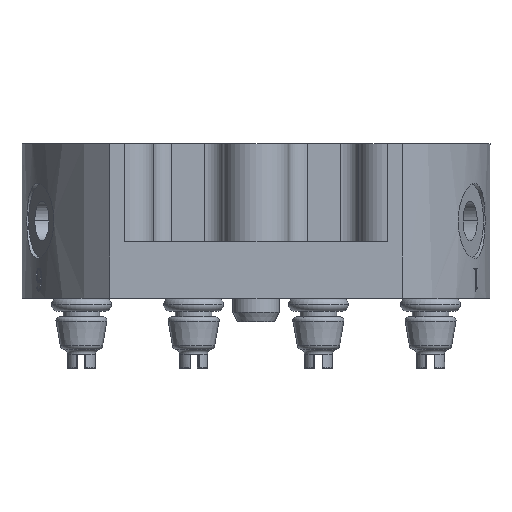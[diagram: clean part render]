
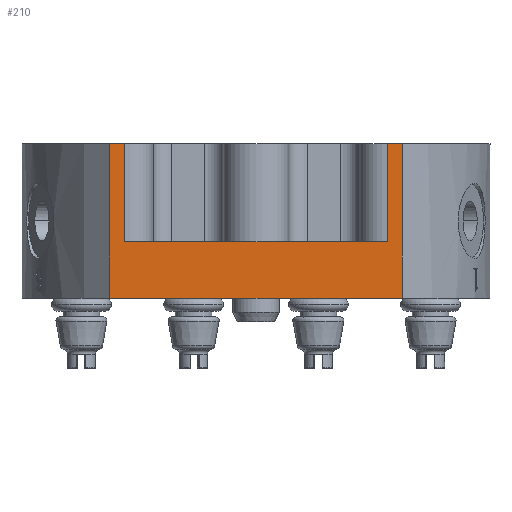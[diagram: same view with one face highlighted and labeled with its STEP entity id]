
A CAD part, front view. The second image highlights one B-rep face of the part: STEP entity #210.
In plain terms, the highlighted planar face has unit normal (0, -1, 0).
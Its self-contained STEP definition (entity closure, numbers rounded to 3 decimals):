
#142 = CARTESIAN_POINT ( 'NONE',  ( -27.245, -24.983, 18.075 ) ) ;
#185 = VERTEX_POINT ( 'NONE', #7822 ) ;
#210 = ADVANCED_FACE ( 'NONE', ( #25663 ), #8456, .T. ) ;
#1057 = DIRECTION ( 'NONE',  ( -1., 0., 0. ) ) ;
#1151 = CARTESIAN_POINT ( 'NONE',  ( -42.89, -24.983, 24.075 ) ) ;
#1466 = CARTESIAN_POINT ( 'NONE',  ( -42.89, -24.983, 34.575 ) ) ;
#1740 = CARTESIAN_POINT ( 'NONE',  ( -58.534, -24.983, 18.075 ) ) ;
#2081 = DIRECTION ( 'NONE',  ( -1., 0., 0. ) ) ;
#2202 = LINE ( 'NONE', #18168, #13422 ) ;
#2273 = EDGE_CURVE ( 'NONE', #9761, #6561, #5749, .T. ) ;
#2812 = LINE ( 'NONE', #5069, #14092 ) ;
#3131 = ORIENTED_EDGE ( 'NONE', *, *, #2273, .T. ) ;
#3979 = DIRECTION ( 'NONE',  ( -1., 0., 0. ) ) ;
#4450 = VECTOR ( 'NONE', #21572, 1000. ) ;
#4564 = DIRECTION ( 'NONE',  ( 0., 0., 1. ) ) ;
#5069 = CARTESIAN_POINT ( 'NONE',  ( -42.89, -24.983, 24.075 ) ) ;
#5573 = CARTESIAN_POINT ( 'NONE',  ( -42.892, -24.983, 18.075 ) ) ;
#5749 = LINE ( 'NONE', #15601, #6136 ) ;
#5947 = VERTEX_POINT ( 'NONE', #142 ) ;
#6067 = EDGE_CURVE ( 'NONE', #20191, #11606, #15251, .T. ) ;
#6136 = VECTOR ( 'NONE', #16026, 1000. ) ;
#6561 = VERTEX_POINT ( 'NONE', #16108 ) ;
#7100 = ORIENTED_EDGE ( 'NONE', *, *, #17906, .F. ) ;
#7822 = CARTESIAN_POINT ( 'NONE',  ( -58.534, -24.983, 34.575 ) ) ;
#8041 = CARTESIAN_POINT ( 'NONE',  ( -27.245, -24.983, 34.575 ) ) ;
#8456 = PLANE ( 'NONE',  #28119 ) ;
#8491 = DIRECTION ( 'NONE',  ( 0., -1., 0. ) ) ;
#8518 = DIRECTION ( 'NONE',  ( -1., 0., 0. ) ) ;
#8555 = EDGE_CURVE ( 'NONE', #11606, #16123, #26502, .T. ) ;
#8584 = EDGE_CURVE ( 'NONE', #5947, #20191, #27546, .T. ) ;
#9564 = EDGE_CURVE ( 'NONE', #16123, #16764, #13541, .T. ) ;
#9664 = DIRECTION ( 'NONE',  ( -1., 0., 0. ) ) ;
#9761 = VERTEX_POINT ( 'NONE', #15913 ) ;
#10379 = CARTESIAN_POINT ( 'NONE',  ( -28.89, -24.983, 26.325 ) ) ;
#10414 = DIRECTION ( 'NONE',  ( 0., 0., -1. ) ) ;
#10519 = LINE ( 'NONE', #5573, #4450 ) ;
#10603 = CARTESIAN_POINT ( 'NONE',  ( -27.245, -24.983, 26.325 ) ) ;
#10774 = DIRECTION ( 'NONE',  ( 0., 0., 1. ) ) ;
#10841 = VERTEX_POINT ( 'NONE', #1740 ) ;
#11177 = ORIENTED_EDGE ( 'NONE', *, *, #6067, .T. ) ;
#11606 = VERTEX_POINT ( 'NONE', #23247 ) ;
#13213 = VECTOR ( 'NONE', #1057, 1000. ) ;
#13422 = VECTOR ( 'NONE', #4564, 1000. ) ;
#13541 = LINE ( 'NONE', #1151, #13213 ) ;
#14092 = VECTOR ( 'NONE', #9664, 1000. ) ;
#14565 = VECTOR ( 'NONE', #2081, 1000. ) ;
#15251 = LINE ( 'NONE', #1466, #14565 ) ;
#15601 = CARTESIAN_POINT ( 'NONE',  ( -56.89, -24.983, 26.325 ) ) ;
#15913 = CARTESIAN_POINT ( 'NONE',  ( -56.89, -24.983, 24.075 ) ) ;
#16026 = DIRECTION ( 'NONE',  ( 0., 0., 1. ) ) ;
#16094 = ORIENTED_EDGE ( 'NONE', *, *, #20174, .F. ) ;
#16108 = CARTESIAN_POINT ( 'NONE',  ( -56.89, -24.983, 34.575 ) ) ;
#16123 = VERTEX_POINT ( 'NONE', #17110 ) ;
#16764 = VERTEX_POINT ( 'NONE', #23297 ) ;
#17110 = CARTESIAN_POINT ( 'NONE',  ( -28.89, -24.983, 24.075 ) ) ;
#17906 = EDGE_CURVE ( 'NONE', #10841, #185, #2202, .T. ) ;
#18168 = CARTESIAN_POINT ( 'NONE',  ( -58.534, -24.983, 26.325 ) ) ;
#18492 = ORIENTED_EDGE ( 'NONE', *, *, #28581, .T. ) ;
#18823 = LINE ( 'NONE', #22126, #24795 ) ;
#18854 = ORIENTED_EDGE ( 'NONE', *, *, #8584, .T. ) ;
#20174 = EDGE_CURVE ( 'NONE', #5947, #10841, #10519, .T. ) ;
#20191 = VERTEX_POINT ( 'NONE', #23832 ) ;
#20836 = ORIENTED_EDGE ( 'NONE', *, *, #9564, .T. ) ;
#21572 = DIRECTION ( 'NONE',  ( -1., 0., 0. ) ) ;
#21795 = ORIENTED_EDGE ( 'NONE', *, *, #8555, .T. ) ;
#22126 = CARTESIAN_POINT ( 'NONE',  ( -42.89, -24.983, 34.575 ) ) ;
#23247 = CARTESIAN_POINT ( 'NONE',  ( -28.89, -24.983, 34.575 ) ) ;
#23297 = CARTESIAN_POINT ( 'NONE',  ( -42.89, -24.983, 24.075 ) ) ;
#23678 = VECTOR ( 'NONE', #10414, 1000. ) ;
#23829 = VECTOR ( 'NONE', #10774, 1000. ) ;
#23832 = CARTESIAN_POINT ( 'NONE',  ( -27.245, -24.983, 34.575 ) ) ;
#24675 = EDGE_CURVE ( 'NONE', #6561, #185, #18823, .T. ) ;
#24795 = VECTOR ( 'NONE', #3979, 1000. ) ;
#25663 = FACE_OUTER_BOUND ( 'NONE', #28569, .T. ) ;
#26502 = LINE ( 'NONE', #10379, #23678 ) ;
#26765 = ORIENTED_EDGE ( 'NONE', *, *, #24675, .T. ) ;
#27546 = LINE ( 'NONE', #10603, #23829 ) ;
#28119 = AXIS2_PLACEMENT_3D ( 'NONE', #8041, #8491, #8518 ) ;
#28569 = EDGE_LOOP ( 'NONE', ( #21795, #20836, #18492, #3131, #26765, #7100, #16094, #18854, #11177 ) ) ;
#28581 = EDGE_CURVE ( 'NONE', #16764, #9761, #2812, .T. ) ;
